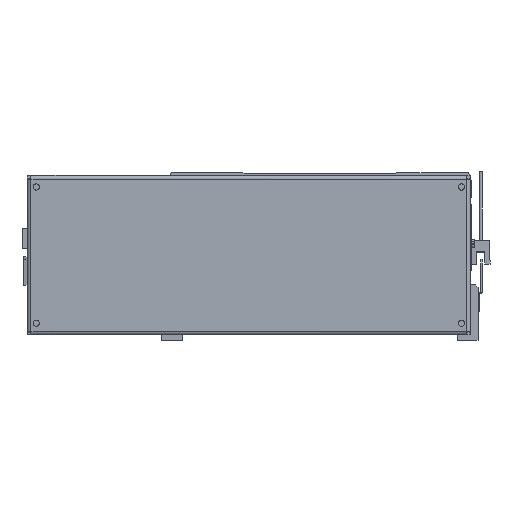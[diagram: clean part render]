
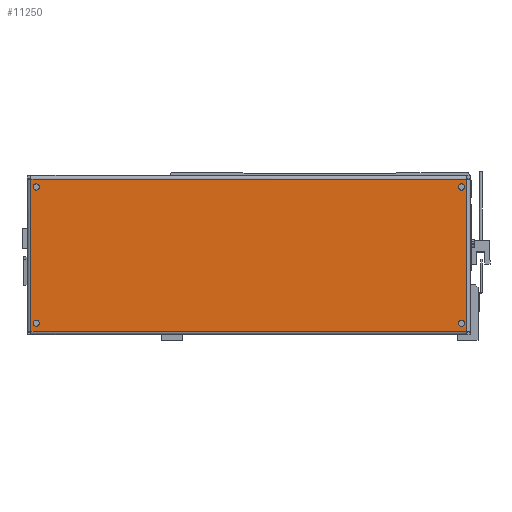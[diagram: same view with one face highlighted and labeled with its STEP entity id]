
A CAD part, front view. The second image highlights one B-rep face of the part: STEP entity #11250.
In plain terms, the highlighted planar face has unit normal (0, -1, 0) as drawn and (0, 0, 1) by its records, which use the part's own axes.
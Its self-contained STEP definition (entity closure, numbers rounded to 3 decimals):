
#172 = DIRECTION ( 'NONE',  ( 0., 0., 1. ) ) ;
#176 = VERTEX_POINT ( 'NONE', #2361 ) ;
#350 = EDGE_CURVE ( 'NONE', #10443, #19541, #22294, .T. ) ;
#390 = VECTOR ( 'NONE', #18055, 1000. ) ;
#967 = EDGE_LOOP ( 'NONE', ( #27222, #11122 ) ) ;
#987 = AXIS2_PLACEMENT_3D ( 'NONE', #1116, #27338, #11789 ) ;
#1116 = CARTESIAN_POINT ( 'NONE',  ( 210.771, -66.37, 72. ) ) ;
#1137 = DIRECTION ( 'NONE',  ( 0., 0., 1. ) ) ;
#2156 = EDGE_LOOP ( 'NONE', ( #20740, #27148, #11313, #27010 ) ) ;
#2329 = EDGE_CURVE ( 'NONE', #11119, #10443, #5025, .T. ) ;
#2361 = CARTESIAN_POINT ( 'NONE',  ( -100.479, 32.63, 72. ) ) ;
#2414 = DIRECTION ( 'NONE',  ( 1., 0., 0. ) ) ;
#2511 = CIRCLE ( 'NONE', #7435, 2.25 ) ;
#2998 = CARTESIAN_POINT ( 'NONE',  ( -102.022, -72.133, 72. ) ) ;
#3472 = EDGE_CURVE ( 'NONE', #16573, #17626, #21923, .T. ) ;
#3643 = DIRECTION ( 'NONE',  ( 0., 0., 1. ) ) ;
#4353 = CARTESIAN_POINT ( 'NONE',  ( -101.992, 38.423, 72. ) ) ;
#4429 = AXIS2_PLACEMENT_3D ( 'NONE', #27642, #25406, #12311 ) ;
#4474 = CIRCLE ( 'NONE', #19815, 2.25 ) ;
#5025 = LINE ( 'NONE', #2998, #27958 ) ;
#6122 = CARTESIAN_POINT ( 'NONE',  ( -95.979, -66.37, 72. ) ) ;
#6502 = DIRECTION ( 'NONE',  ( 0., 0., 1. ) ) ;
#6565 = DIRECTION ( 'NONE',  ( 1., 0., 0. ) ) ;
#6887 = EDGE_CURVE ( 'NONE', #20181, #176, #19558, .T. ) ;
#6961 = EDGE_CURVE ( 'NONE', #8337, #24592, #20957, .T. ) ;
#7435 = AXIS2_PLACEMENT_3D ( 'NONE', #26624, #6502, #19900 ) ;
#7711 = CARTESIAN_POINT ( 'NONE',  ( 214.535, -72.133, 72. ) ) ;
#7911 = PLANE ( 'NONE',  #4429 ) ;
#8337 = VERTEX_POINT ( 'NONE', #13725 ) ;
#8871 = CARTESIAN_POINT ( 'NONE',  ( 213.021, -66.37, 72. ) ) ;
#8928 = VECTOR ( 'NONE', #22121, 1000. ) ;
#9630 = EDGE_CURVE ( 'NONE', #27493, #27180, #18377, .T. ) ;
#9868 = FACE_OUTER_BOUND ( 'NONE', #2156, .T. ) ;
#10324 = CARTESIAN_POINT ( 'NONE',  ( -98.229, -66.37, 72. ) ) ;
#10443 = VERTEX_POINT ( 'NONE', #7711 ) ;
#10542 = CARTESIAN_POINT ( 'NONE',  ( 214.535, 38.394, 72. ) ) ;
#10974 = CARTESIAN_POINT ( 'NONE',  ( 210.771, 32.63, 72. ) ) ;
#11059 = ORIENTED_EDGE ( 'NONE', *, *, #9630, .F. ) ;
#11119 = VERTEX_POINT ( 'NONE', #22704 ) ;
#11122 = ORIENTED_EDGE ( 'NONE', *, *, #27959, .F. ) ;
#11179 = CARTESIAN_POINT ( 'NONE',  ( -98.229, -66.37, 72. ) ) ;
#11247 = AXIS2_PLACEMENT_3D ( 'NONE', #10974, #12991, #15230 ) ;
#11250 = ADVANCED_FACE ( 'NONE', ( #22058, #15087, #20641, #14043, #9868 ), #7911, .T. ) ;
#11254 = CARTESIAN_POINT ( 'NONE',  ( 210.771, 32.63, 72. ) ) ;
#11313 = ORIENTED_EDGE ( 'NONE', *, *, #2329, .T. ) ;
#11558 = CARTESIAN_POINT ( 'NONE',  ( 208.521, 32.63, 72. ) ) ;
#11663 = AXIS2_PLACEMENT_3D ( 'NONE', #23261, #1137, #16632 ) ;
#11741 = AXIS2_PLACEMENT_3D ( 'NONE', #10324, #3643, #19040 ) ;
#11789 = DIRECTION ( 'NONE',  ( 1., 0., 0. ) ) ;
#11856 = CARTESIAN_POINT ( 'NONE',  ( 214.535, -72.163, 72. ) ) ;
#12260 = ORIENTED_EDGE ( 'NONE', *, *, #6887, .F. ) ;
#12311 = DIRECTION ( 'NONE',  ( 1., 0., 0. ) ) ;
#12411 = LINE ( 'NONE', #4353, #8928 ) ;
#12897 = EDGE_CURVE ( 'NONE', #176, #20181, #2511, .T. ) ;
#12991 = DIRECTION ( 'NONE',  ( 0., 0., 1. ) ) ;
#13725 = CARTESIAN_POINT ( 'NONE',  ( 213.021, 32.63, 72. ) ) ;
#13774 = EDGE_LOOP ( 'NONE', ( #11059, #26737 ) ) ;
#14043 = FACE_BOUND ( 'NONE', #967, .T. ) ;
#15087 = FACE_BOUND ( 'NONE', #24555, .T. ) ;
#15213 = EDGE_CURVE ( 'NONE', #19541, #16017, #20054, .T. ) ;
#15217 = ORIENTED_EDGE ( 'NONE', *, *, #12897, .F. ) ;
#15230 = DIRECTION ( 'NONE',  ( 1., 0., 0. ) ) ;
#15627 = EDGE_CURVE ( 'NONE', #16017, #11119, #12411, .T. ) ;
#16017 = VERTEX_POINT ( 'NONE', #19905 ) ;
#16063 = CIRCLE ( 'NONE', #987, 2.25 ) ;
#16234 = AXIS2_PLACEMENT_3D ( 'NONE', #16859, #28714, #6565 ) ;
#16573 = VERTEX_POINT ( 'NONE', #6122 ) ;
#16632 = DIRECTION ( 'NONE',  ( 1., 0., 0. ) ) ;
#16859 = CARTESIAN_POINT ( 'NONE',  ( -98.229, 32.63, 72. ) ) ;
#17540 = ORIENTED_EDGE ( 'NONE', *, *, #17971, .F. ) ;
#17626 = VERTEX_POINT ( 'NONE', #22536 ) ;
#17971 = EDGE_CURVE ( 'NONE', #24592, #8337, #23583, .T. ) ;
#18055 = DIRECTION ( 'NONE',  ( 0., 1., 0. ) ) ;
#18377 = CIRCLE ( 'NONE', #11663, 2.25 ) ;
#19040 = DIRECTION ( 'NONE',  ( 1., 0., 0. ) ) ;
#19157 = CARTESIAN_POINT ( 'NONE',  ( 214.564, 38.394, 72. ) ) ;
#19418 = AXIS2_PLACEMENT_3D ( 'NONE', #11254, #172, #2414 ) ;
#19541 = VERTEX_POINT ( 'NONE', #10542 ) ;
#19558 = CIRCLE ( 'NONE', #16234, 2.25 ) ;
#19815 = AXIS2_PLACEMENT_3D ( 'NONE', #11179, #26698, #21951 ) ;
#19900 = DIRECTION ( 'NONE',  ( 1., 0., 0. ) ) ;
#19905 = CARTESIAN_POINT ( 'NONE',  ( -101.992, 38.394, 72. ) ) ;
#20054 = LINE ( 'NONE', #19157, #25269 ) ;
#20181 = VERTEX_POINT ( 'NONE', #24277 ) ;
#20627 = ORIENTED_EDGE ( 'NONE', *, *, #6961, .F. ) ;
#20641 = FACE_BOUND ( 'NONE', #24709, .T. ) ;
#20740 = ORIENTED_EDGE ( 'NONE', *, *, #15213, .T. ) ;
#20957 = CIRCLE ( 'NONE', #11247, 2.25 ) ;
#21923 = CIRCLE ( 'NONE', #11741, 2.25 ) ;
#21951 = DIRECTION ( 'NONE',  ( 1., 0., 0. ) ) ;
#22058 = FACE_BOUND ( 'NONE', #13774, .T. ) ;
#22121 = DIRECTION ( 'NONE',  ( 0., -1., 0. ) ) ;
#22294 = LINE ( 'NONE', #11856, #390 ) ;
#22536 = CARTESIAN_POINT ( 'NONE',  ( -100.479, -66.37, 72. ) ) ;
#22704 = CARTESIAN_POINT ( 'NONE',  ( -101.992, -72.133, 72. ) ) ;
#23261 = CARTESIAN_POINT ( 'NONE',  ( 210.771, -66.37, 72. ) ) ;
#23348 = DIRECTION ( 'NONE',  ( -1., 0., 0. ) ) ;
#23583 = CIRCLE ( 'NONE', #19418, 2.25 ) ;
#24277 = CARTESIAN_POINT ( 'NONE',  ( -95.979, 32.63, 72. ) ) ;
#24555 = EDGE_LOOP ( 'NONE', ( #20627, #17540 ) ) ;
#24592 = VERTEX_POINT ( 'NONE', #11558 ) ;
#24709 = EDGE_LOOP ( 'NONE', ( #12260, #15217 ) ) ;
#24807 = DIRECTION ( 'NONE',  ( 1., 0., 0. ) ) ;
#25239 = EDGE_CURVE ( 'NONE', #27180, #27493, #16063, .T. ) ;
#25269 = VECTOR ( 'NONE', #23348, 1000. ) ;
#25406 = DIRECTION ( 'NONE',  ( 0., 0., 1. ) ) ;
#26055 = CARTESIAN_POINT ( 'NONE',  ( 208.521, -66.37, 72. ) ) ;
#26624 = CARTESIAN_POINT ( 'NONE',  ( -98.229, 32.63, 72. ) ) ;
#26698 = DIRECTION ( 'NONE',  ( 0., 0., 1. ) ) ;
#26737 = ORIENTED_EDGE ( 'NONE', *, *, #25239, .F. ) ;
#27010 = ORIENTED_EDGE ( 'NONE', *, *, #350, .T. ) ;
#27148 = ORIENTED_EDGE ( 'NONE', *, *, #15627, .T. ) ;
#27180 = VERTEX_POINT ( 'NONE', #26055 ) ;
#27222 = ORIENTED_EDGE ( 'NONE', *, *, #3472, .F. ) ;
#27338 = DIRECTION ( 'NONE',  ( 0., 0., 1. ) ) ;
#27493 = VERTEX_POINT ( 'NONE', #8871 ) ;
#27642 = CARTESIAN_POINT ( 'NONE',  ( -76.079, -40.83, 72. ) ) ;
#27958 = VECTOR ( 'NONE', #24807, 1000. ) ;
#27959 = EDGE_CURVE ( 'NONE', #17626, #16573, #4474, .T. ) ;
#28714 = DIRECTION ( 'NONE',  ( 0., 0., 1. ) ) ;
